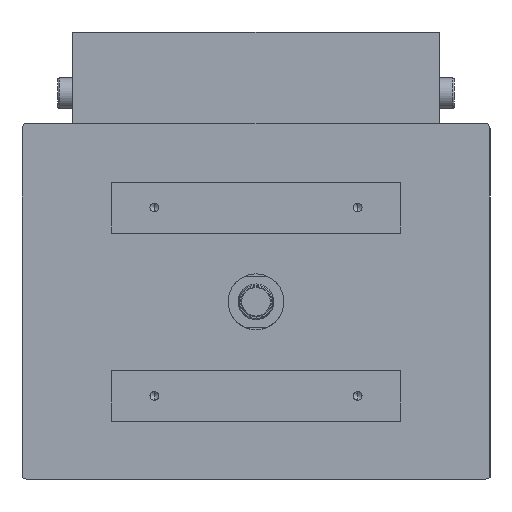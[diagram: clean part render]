
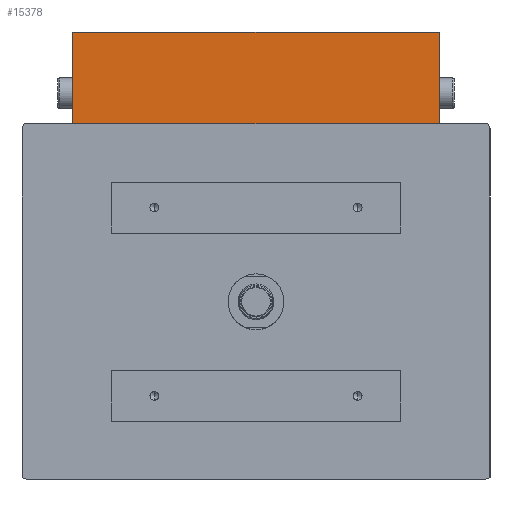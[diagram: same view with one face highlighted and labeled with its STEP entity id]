
A CAD part, front view. The second image highlights one B-rep face of the part: STEP entity #15378.
In plain terms, the highlighted planar face has unit normal (0, -1, 0).
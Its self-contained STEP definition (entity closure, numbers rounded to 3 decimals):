
#7 = PLANE ( 'NONE',  #15731 ) ;
#610 = LINE ( 'NONE', #8547, #14872 ) ;
#677 = LINE ( 'NONE', #1876, #3998 ) ;
#1068 = DIRECTION ( 'NONE',  ( 0., 0., -1. ) ) ;
#1876 = CARTESIAN_POINT ( 'NONE',  ( 180., -45., 265. ) ) ;
#1906 = ORIENTED_EDGE ( 'NONE', *, *, #13356, .T. ) ;
#2878 = EDGE_CURVE ( 'NONE', #7901, #15297, #610, .T. ) ;
#3505 = LINE ( 'NONE', #7592, #13619 ) ;
#3986 = ORIENTED_EDGE ( 'NONE', *, *, #2878, .F. ) ;
#3998 = VECTOR ( 'NONE', #10262, 1000. ) ;
#4844 = DIRECTION ( 'NONE',  ( 0., 0., -1. ) ) ;
#6820 = CARTESIAN_POINT ( 'NONE',  ( 180., -45., 265. ) ) ;
#7105 = DIRECTION ( 'NONE',  ( 0., 1., 0. ) ) ;
#7592 = CARTESIAN_POINT ( 'NONE',  ( -180., -45., 265. ) ) ;
#7901 = VERTEX_POINT ( 'NONE', #15128 ) ;
#8196 = CARTESIAN_POINT ( 'NONE',  ( -180., -45., 175. ) ) ;
#8263 = VERTEX_POINT ( 'NONE', #15372 ) ;
#8426 = CARTESIAN_POINT ( 'NONE',  ( 180., -45., 265. ) ) ;
#8449 = DIRECTION ( 'NONE',  ( -1., 0., 0. ) ) ;
#8547 = CARTESIAN_POINT ( 'NONE',  ( 180., -45., 175. ) ) ;
#10262 = DIRECTION ( 'NONE',  ( -1., 0., 0. ) ) ;
#10842 = CARTESIAN_POINT ( 'NONE',  ( 180., -45., 265. ) ) ;
#13356 = EDGE_CURVE ( 'NONE', #15276, #8263, #677, .T. ) ;
#13611 = EDGE_CURVE ( 'NONE', #15276, #7901, #14294, .T. ) ;
#13619 = VECTOR ( 'NONE', #4844, 1000. ) ;
#13828 = FACE_OUTER_BOUND ( 'NONE', #15887, .T. ) ;
#14294 = LINE ( 'NONE', #10842, #17806 ) ;
#14872 = VECTOR ( 'NONE', #8449, 1000. ) ;
#15128 = CARTESIAN_POINT ( 'NONE',  ( 180., -45., 175. ) ) ;
#15276 = VERTEX_POINT ( 'NONE', #6820 ) ;
#15297 = VERTEX_POINT ( 'NONE', #8196 ) ;
#15372 = CARTESIAN_POINT ( 'NONE',  ( -180., -45., 265. ) ) ;
#15378 = ADVANCED_FACE ( 'NONE', ( #13828 ), #7, .F. ) ;
#15609 = EDGE_CURVE ( 'NONE', #8263, #15297, #3505, .T. ) ;
#15731 = AXIS2_PLACEMENT_3D ( 'NONE', #8426, #7105, #16549 ) ;
#15887 = EDGE_LOOP ( 'NONE', ( #16590, #3986, #17443, #1906 ) ) ;
#16549 = DIRECTION ( 'NONE',  ( 0., 0., 1. ) ) ;
#16590 = ORIENTED_EDGE ( 'NONE', *, *, #15609, .T. ) ;
#17443 = ORIENTED_EDGE ( 'NONE', *, *, #13611, .F. ) ;
#17806 = VECTOR ( 'NONE', #1068, 1000. ) ;
